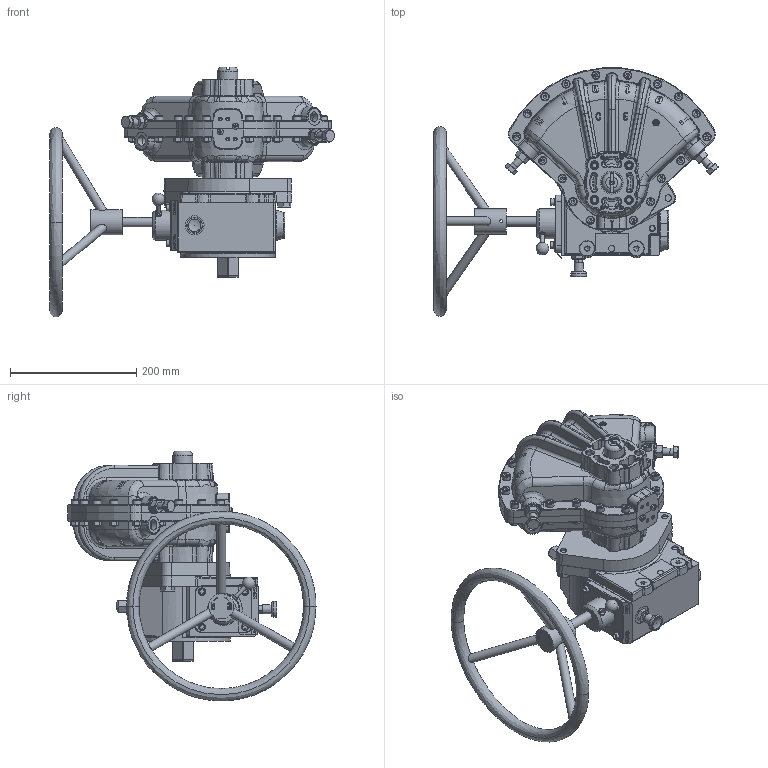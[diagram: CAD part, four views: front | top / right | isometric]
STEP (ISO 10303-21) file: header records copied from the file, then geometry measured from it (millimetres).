
FILE_DESCRIPTION(/* description */ ('Unknown'),/* implementation_level */ '2;1');
FILE_NAME(/* name */ 'D000000224_01032017',/* time_stamp */ '2017-03-06T12:36:57+05:00',/* author */ ('Unknown'),/* organization */ ('Unknown'),/* preprocessor_version */ 'ST-DEVELOPER v16.7',/* originating_system */ 'DEX',/* authorisation */ $);
FILE_SCHEMA (('AUTOMOTIVE_DESIGN {1 0 10303 214 3 1 1}'));
Products named in the file (1): D000000224_01032017
Bounding box: 450.44 x 392.83 x 395.63 mm (x, y, z)
Surface area: 691296.3 mm2 (no closed solid volume)
Topology: 0 solids, 132 shells, 2981 faces, 7623 edges, 4710 vertices
Faces by surface type: plane 906, bspline 727, cone 561, cylinder 351, torus 323, sphere 113
Full cylindrical faces by diameter (mm): 4.134 x22, 4.917 x2, 5 x2, 5.1 x1, 6 x1, 8 x18, 10 x7, 10.106 x2, 10.584 x20, 12 x9, 13 x18, 14 x3, 14.5 x1, 15 x2, 15.281 x2, 16 x2, 16.63 x2, 21 x1, 23.67 x2, 24 x2, 24.5 x1, 25 x1, 26 x2, 27 x2, 30 x1, 31.29 x1, 31.7 x1, 36 x2, 40 x1, 48 x1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
Entity records: 138964 total; most frequent: CARTESIAN_POINT 74001, ORIENTED_EDGE 13116, DIRECTION 11625, EDGE_CURVE 7071, AXIS2_PLACEMENT_3D 4886, VERTEX_POINT 4591, FACE_BOUND 3648, EDGE_LOOP 3619
